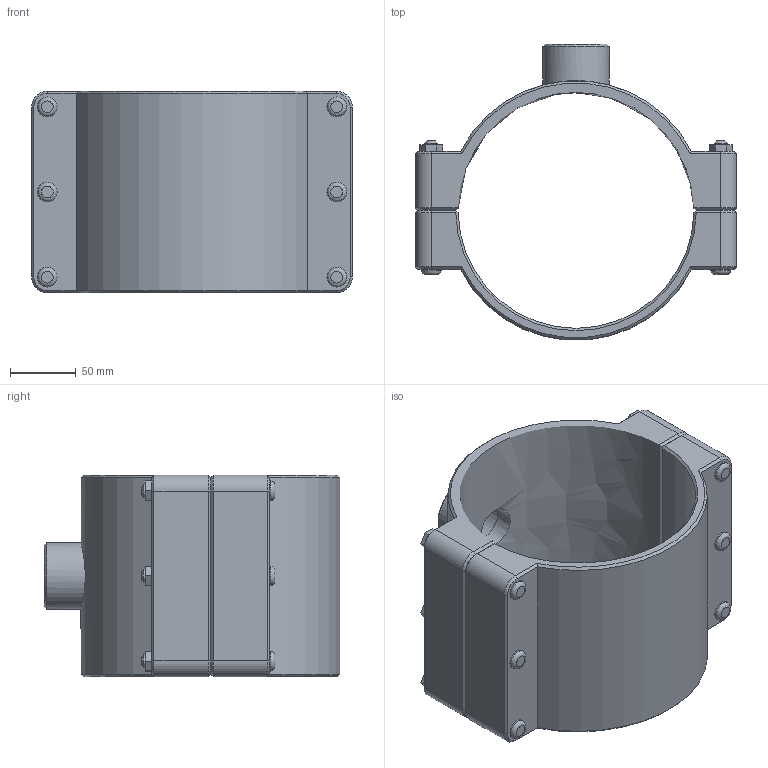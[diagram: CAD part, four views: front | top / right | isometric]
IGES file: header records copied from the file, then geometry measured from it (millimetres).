
Global section: file name: 160760180013_160860180013.ipt; native system: Autodesk Inventor 2015; preprocessor: unknown; author: KIM; date: 20170618.093626; units: millimetre
Bounding box: 245 x 225.65 x 154 mm (x, y, z)
Volume: 1581860.9 mm3; surface area: 244466.7 mm2
Topology: 1 solids, 1 shells, 169 faces, 394 edges, 249 vertices
Faces by surface type: plane 100, cylinder 29, cone 27, revolution 13
Full cylindrical faces by diameter (mm): 10 x6, 15 x12, 50.638 x1
